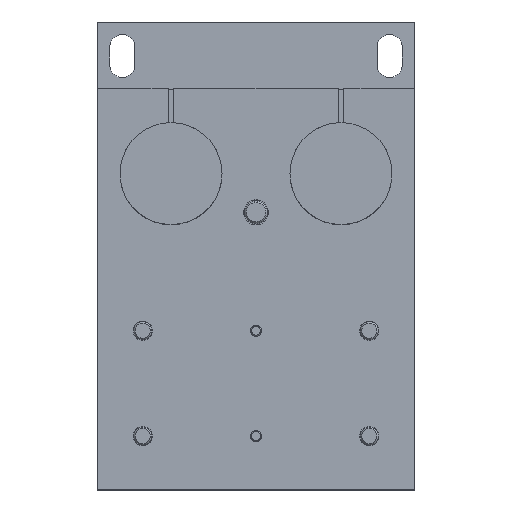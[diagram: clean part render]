
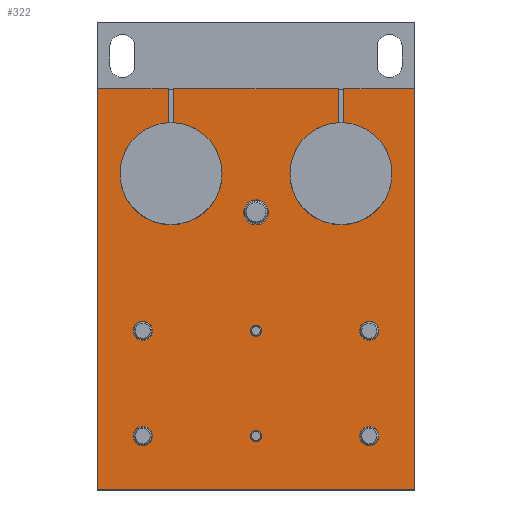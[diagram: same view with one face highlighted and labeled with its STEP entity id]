
A CAD part, top view. The second image highlights one B-rep face of the part: STEP entity #322.
In plain terms, the highlighted planar face has unit normal (0, 0, 1).
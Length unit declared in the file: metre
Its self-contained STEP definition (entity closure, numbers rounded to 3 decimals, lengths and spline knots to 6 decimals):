
#322 = ADVANCED_FACE( '', ( #752, #753, #754, #755, #756, #757, #758, #759 ), #760, .F. );
#752 = FACE_BOUND( '', #1319, .T. );
#753 = FACE_BOUND( '', #1320, .T. );
#754 = FACE_BOUND( '', #1321, .T. );
#755 = FACE_BOUND( '', #1322, .T. );
#756 = FACE_BOUND( '', #1323, .T. );
#757 = FACE_BOUND( '', #1324, .T. );
#758 = FACE_BOUND( '', #1325, .T. );
#759 = FACE_OUTER_BOUND( '', #1326, .T. );
#760 = PLANE( '', #1327 );
#1319 = EDGE_LOOP( '', ( #2162 ) );
#1320 = EDGE_LOOP( '', ( #2163 ) );
#1321 = EDGE_LOOP( '', ( #2164 ) );
#1322 = EDGE_LOOP( '', ( #2165 ) );
#1323 = EDGE_LOOP( '', ( #2166 ) );
#1324 = EDGE_LOOP( '', ( #2167 ) );
#1325 = EDGE_LOOP( '', ( #2168 ) );
#1326 = EDGE_LOOP( '', ( #2169, #2170, #2171, #2172, #2173, #2174, #2175, #2176, #2177, #2178, #2179, #2180 ) );
#1327 = AXIS2_PLACEMENT_3D( '', #2181, #2182, #2183 );
#2162 = ORIENTED_EDGE( '', *, *, #2923, .T. );
#2163 = ORIENTED_EDGE( '', *, *, #3066, .T. );
#2164 = ORIENTED_EDGE( '', *, *, #3131, .T. );
#2165 = ORIENTED_EDGE( '', *, *, #3132, .T. );
#2166 = ORIENTED_EDGE( '', *, *, #2869, .T. );
#2167 = ORIENTED_EDGE( '', *, *, #3106, .T. );
#2168 = ORIENTED_EDGE( '', *, *, #3103, .T. );
#2169 = ORIENTED_EDGE( '', *, *, #3133, .F. );
#2170 = ORIENTED_EDGE( '', *, *, #3134, .F. );
#2171 = ORIENTED_EDGE( '', *, *, #3135, .F. );
#2172 = ORIENTED_EDGE( '', *, *, #3136, .T. );
#2173 = ORIENTED_EDGE( '', *, *, #3137, .F. );
#2174 = ORIENTED_EDGE( '', *, *, #3021, .F. );
#2175 = ORIENTED_EDGE( '', *, *, #3138, .F. );
#2176 = ORIENTED_EDGE( '', *, *, #3139, .F. );
#2177 = ORIENTED_EDGE( '', *, *, #3140, .F. );
#2178 = ORIENTED_EDGE( '', *, *, #3141, .F. );
#2179 = ORIENTED_EDGE( '', *, *, #3142, .F. );
#2180 = ORIENTED_EDGE( '', *, *, #2941, .T. );
#2181 = CARTESIAN_POINT( '', ( -0.07, 0.035, 0.3 ) );
#2182 = DIRECTION( '', ( 0., 0., -1. ) );
#2183 = DIRECTION( '', ( 0., 1., 0. ) );
#2869 = EDGE_CURVE( '', #3323, #3323, #3324, .T. );
#2923 = EDGE_CURVE( '', #3416, #3416, #3417, .T. );
#2941 = EDGE_CURVE( '', #3447, #3444, #3448, .T. );
#3021 = EDGE_CURVE( '', #3578, #3573, #3580, .T. );
#3066 = EDGE_CURVE( '', #3651, #3651, #3652, .T. );
#3103 = EDGE_CURVE( '', #3708, #3708, #3709, .T. );
#3106 = EDGE_CURVE( '', #3713, #3713, #3714, .T. );
#3131 = EDGE_CURVE( '', #3749, #3749, #3750, .T. );
#3132 = EDGE_CURVE( '', #3751, #3751, #3752, .T. );
#3133 = EDGE_CURVE( '', #3753, #3444, #3754, .T. );
#3134 = EDGE_CURVE( '', #3755, #3753, #3756, .T. );
#3135 = EDGE_CURVE( '', #3757, #3755, #3758, .T. );
#3136 = EDGE_CURVE( '', #3757, #3759, #3760, .T. );
#3137 = EDGE_CURVE( '', #3573, #3759, #3761, .T. );
#3138 = EDGE_CURVE( '', #3762, #3578, #3763, .T. );
#3139 = EDGE_CURVE( '', #3764, #3762, #3765, .T. );
#3140 = EDGE_CURVE( '', #3766, #3764, #3767, .T. );
#3141 = EDGE_CURVE( '', #3768, #3766, #3769, .T. );
#3142 = EDGE_CURVE( '', #3447, #3768, #3770, .T. );
#3323 = VERTEX_POINT( '', #3994 );
#3324 = CIRCLE( '', #3995, 0.00425 );
#3416 = VERTEX_POINT( '', #4128 );
#3417 = CIRCLE( '', #4129, 0.0025 );
#3444 = VERTEX_POINT( '', #4210 );
#3447 = VERTEX_POINT( '', #4214 );
#3448 = CIRCLE( '', #4215, 0.0225 );
#3573 = VERTEX_POINT( '', #4493 );
#3578 = VERTEX_POINT( '', #4500 );
#3580 = LINE( '', #4503, #4504 );
#3651 = VERTEX_POINT( '', #4617 );
#3652 = CIRCLE( '', #4618, 0.0025 );
#3708 = VERTEX_POINT( '', #4690 );
#3709 = CIRCLE( '', #4691, 0.00425 );
#3713 = VERTEX_POINT( '', #4695 );
#3714 = CIRCLE( '', #4696, 0.00425 );
#3749 = VERTEX_POINT( '', #4745 );
#3750 = CIRCLE( '', #4746, 0.0055 );
#3751 = VERTEX_POINT( '', #4747 );
#3752 = CIRCLE( '', #4748, 0.00425 );
#3753 = VERTEX_POINT( '', #4749 );
#3754 = LINE( '', #4750, #4751 );
#3755 = VERTEX_POINT( '', #4752 );
#3756 = LINE( '', #4753, #4754 );
#3757 = VERTEX_POINT( '', #4755 );
#3758 = LINE( '', #4756, #4757 );
#3759 = VERTEX_POINT( '', #4758 );
#3760 = CIRCLE( '', #4759, 0.0225 );
#3761 = LINE( '', #4760, #4761 );
#3762 = VERTEX_POINT( '', #4762 );
#3763 = LINE( '', #4763, #4764 );
#3764 = VERTEX_POINT( '', #4765 );
#3765 = LINE( '', #4766, #4767 );
#3766 = VERTEX_POINT( '', #4768 );
#3767 = LINE( '', #4769, #4770 );
#3768 = VERTEX_POINT( '', #4771 );
#3769 = LINE( '', #4772, #4773 );
#3770 = LINE( '', #4774, #4775 );
#3994 = CARTESIAN_POINT( '', ( 0.05, -0.114, 0.3 ) );
#3995 = AXIS2_PLACEMENT_3D( '', #5104, #5105, #5106 );
#4128 = CARTESIAN_POINT( '', ( 0., -0.11575, 0.3 ) );
#4129 = AXIS2_PLACEMENT_3D( '', #5178, #5179, #5180 );
#4210 = CARTESIAN_POINT( '', ( 0.03625, 0.019965, 0.3 ) );
#4214 = CARTESIAN_POINT( '', ( 0.03875, 0.019965, 0.3 ) );
#4215 = AXIS2_PLACEMENT_3D( '', #5199, #5200, #5201 );
#4493 = CARTESIAN_POINT( '', ( -0.03875, 0.035, 0.3 ) );
#4500 = CARTESIAN_POINT( '', ( -0.07, 0.035, 0.3 ) );
#4503 = CARTESIAN_POINT( '', ( -0.07, 0.035, 0.3 ) );
#4504 = VECTOR( '', #5277, 1. );
#4617 = CARTESIAN_POINT( '', ( 0., -0.06925, 0.3 ) );
#4618 = AXIS2_PLACEMENT_3D( '', #5314, #5315, #5316 );
#4690 = CARTESIAN_POINT( '', ( -0.05, -0.0675, 0.3 ) );
#4691 = AXIS2_PLACEMENT_3D( '', #5366, #5367, #5368 );
#4695 = CARTESIAN_POINT( '', ( 0.05, -0.0675, 0.3 ) );
#4696 = AXIS2_PLACEMENT_3D( '', #5372, #5373, #5374 );
#4745 = CARTESIAN_POINT( '', ( 0., -0.014, 0.3 ) );
#4746 = AXIS2_PLACEMENT_3D( '', #5395, #5396, #5397 );
#4747 = CARTESIAN_POINT( '', ( -0.05, -0.114, 0.3 ) );
#4748 = AXIS2_PLACEMENT_3D( '', #5398, #5399, #5400 );
#4749 = CARTESIAN_POINT( '', ( 0.03625, 0.035, 0.3 ) );
#4750 = CARTESIAN_POINT( '', ( 0.03625, 0.035, 0.3 ) );
#4751 = VECTOR( '', #5401, 1. );
#4752 = CARTESIAN_POINT( '', ( -0.03625, 0.035, 0.3 ) );
#4753 = CARTESIAN_POINT( '', ( -0.07, 0.035, 0.3 ) );
#4754 = VECTOR( '', #5402, 1. );
#4755 = CARTESIAN_POINT( '', ( -0.03625, 0.019965, 0.3 ) );
#4756 = CARTESIAN_POINT( '', ( -0.03625, 0.035, 0.3 ) );
#4757 = VECTOR( '', #5403, 1. );
#4758 = CARTESIAN_POINT( '', ( -0.03875, 0.019965, 0.3 ) );
#4759 = AXIS2_PLACEMENT_3D( '', #5404, #5405, #5406 );
#4760 = CARTESIAN_POINT( '', ( -0.03875, 0.035, 0.3 ) );
#4761 = VECTOR( '', #5407, 1. );
#4762 = CARTESIAN_POINT( '', ( -0.07, -0.142, 0.3 ) );
#4763 = CARTESIAN_POINT( '', ( -0.07, -0.142, 0.3 ) );
#4764 = VECTOR( '', #5408, 1. );
#4765 = CARTESIAN_POINT( '', ( 0.07, -0.142, 0.3 ) );
#4766 = CARTESIAN_POINT( '', ( 0.07, -0.142, 0.3 ) );
#4767 = VECTOR( '', #5409, 1. );
#4768 = CARTESIAN_POINT( '', ( 0.07, 0.035, 0.3 ) );
#4769 = CARTESIAN_POINT( '', ( 0.07, 0.035, 0.3 ) );
#4770 = VECTOR( '', #5410, 1. );
#4771 = CARTESIAN_POINT( '', ( 0.03875, 0.035, 0.3 ) );
#4772 = CARTESIAN_POINT( '', ( -0.07, 0.035, 0.3 ) );
#4773 = VECTOR( '', #5411, 1. );
#4774 = CARTESIAN_POINT( '', ( 0.03875, 0.035, 0.3 ) );
#4775 = VECTOR( '', #5412, 1. );
#5104 = CARTESIAN_POINT( '', ( 0.05, -0.11825, 0.3 ) );
#5105 = DIRECTION( '', ( 0., 0., -1. ) );
#5106 = DIRECTION( '', ( 0., 1., 0. ) );
#5178 = CARTESIAN_POINT( '', ( 0., -0.11825, 0.3 ) );
#5179 = DIRECTION( '', ( 0., 0., -1. ) );
#5180 = DIRECTION( '', ( 0., 1., 0. ) );
#5199 = CARTESIAN_POINT( '', ( 0.0375, -0.0025, 0.3 ) );
#5200 = DIRECTION( '', ( 0., 0., -1. ) );
#5201 = DIRECTION( '', ( 0., 1., 0. ) );
#5277 = DIRECTION( '', ( 1., 0., 0. ) );
#5314 = CARTESIAN_POINT( '', ( 0., -0.07175, 0.3 ) );
#5315 = DIRECTION( '', ( 0., 0., -1. ) );
#5316 = DIRECTION( '', ( 0., 1., 0. ) );
#5366 = CARTESIAN_POINT( '', ( -0.05, -0.07175, 0.3 ) );
#5367 = DIRECTION( '', ( 0., 0., -1. ) );
#5368 = DIRECTION( '', ( 0., 1., 0. ) );
#5372 = CARTESIAN_POINT( '', ( 0.05, -0.07175, 0.3 ) );
#5373 = DIRECTION( '', ( 0., 0., -1. ) );
#5374 = DIRECTION( '', ( 0., 1., 0. ) );
#5395 = CARTESIAN_POINT( '', ( 0., -0.0195, 0.3 ) );
#5396 = DIRECTION( '', ( 0., 0., -1. ) );
#5397 = DIRECTION( '', ( 0., 1., 0. ) );
#5398 = CARTESIAN_POINT( '', ( -0.05, -0.11825, 0.3 ) );
#5399 = DIRECTION( '', ( 0., 0., -1. ) );
#5400 = DIRECTION( '', ( 0., 1., 0. ) );
#5401 = DIRECTION( '', ( 0., -1., 0. ) );
#5402 = DIRECTION( '', ( 1., 0., 0. ) );
#5403 = DIRECTION( '', ( 0., 1., 0. ) );
#5404 = CARTESIAN_POINT( '', ( -0.0375, -0.0025, 0.3 ) );
#5405 = DIRECTION( '', ( 0., 0., -1. ) );
#5406 = DIRECTION( '', ( 0., 1., 0. ) );
#5407 = DIRECTION( '', ( 0., -1., 0. ) );
#5408 = DIRECTION( '', ( 0., 1., 0. ) );
#5409 = DIRECTION( '', ( -1., 0., 0. ) );
#5410 = DIRECTION( '', ( 0., -1., 0. ) );
#5411 = DIRECTION( '', ( 1., 0., 0. ) );
#5412 = DIRECTION( '', ( 0., 1., 0. ) );
